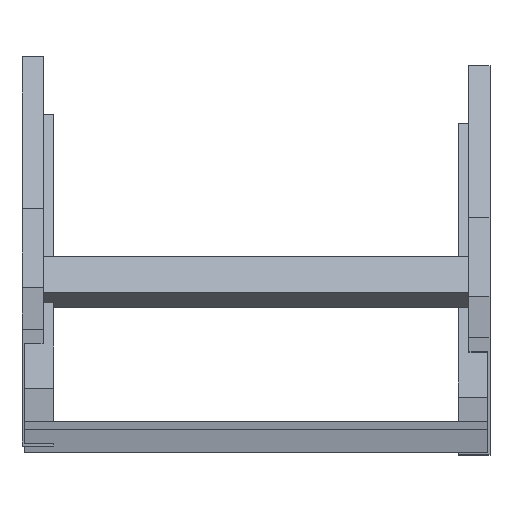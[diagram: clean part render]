
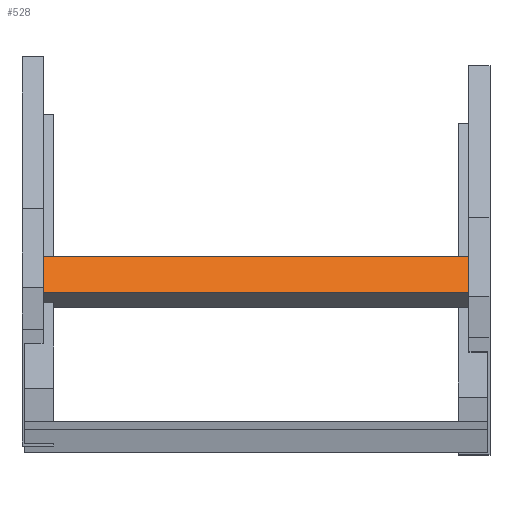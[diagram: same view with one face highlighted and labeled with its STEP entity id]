
A CAD part, top view. The second image highlights one B-rep face of the part: STEP entity #528.
In plain terms, the highlighted planar face has unit normal (0, 0.643, 0.766) as drawn and (0, 1, 0) by its records, which use the part's own axes.
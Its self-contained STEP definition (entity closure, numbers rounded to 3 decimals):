
#37 = VERTEX_POINT ( 'NONE', #1293 ) ;
#50 = VERTEX_POINT ( 'NONE', #629 ) ;
#71 = VERTEX_POINT ( 'NONE', #642 ) ;
#82 = EDGE_LOOP ( 'NONE', ( #953, #494, #124, #395 ) ) ;
#124 = ORIENTED_EDGE ( 'NONE', *, *, #756, .F. ) ;
#318 = EDGE_CURVE ( 'NONE', #470, #37, #587, .T. ) ;
#395 = ORIENTED_EDGE ( 'NONE', *, *, #318, .T. ) ;
#470 = VERTEX_POINT ( 'NONE', #491 ) ;
#491 = CARTESIAN_POINT ( 'NONE',  ( 198., 20., -20.25 ) ) ;
#494 = ORIENTED_EDGE ( 'NONE', *, *, #1624, .F. ) ;
#528 = ADVANCED_FACE ( 'NONE', ( #1152 ), #1663, .F. ) ;
#548 = DIRECTION ( 'NONE',  ( 0., 0., 1. ) ) ;
#580 = CARTESIAN_POINT ( 'NONE',  ( 198., 20., 20.25 ) ) ;
#587 = LINE ( 'NONE', #1612, #949 ) ;
#629 = CARTESIAN_POINT ( 'NONE',  ( 198., 20., 20.25 ) ) ;
#642 = CARTESIAN_POINT ( 'NONE',  ( -198., 20., 20.25 ) ) ;
#699 = AXIS2_PLACEMENT_3D ( 'NONE', #1629, #874, #1147 ) ;
#756 = EDGE_CURVE ( 'NONE', #470, #50, #959, .T. ) ;
#874 = DIRECTION ( 'NONE',  ( 0., -1., 0. ) ) ;
#897 = DIRECTION ( 'NONE',  ( -1., 0., 0. ) ) ;
#933 = CARTESIAN_POINT ( 'NONE',  ( -198., 20., 20.25 ) ) ;
#941 = LINE ( 'NONE', #933, #1539 ) ;
#949 = VECTOR ( 'NONE', #1117, 1000. ) ;
#953 = ORIENTED_EDGE ( 'NONE', *, *, #1331, .T. ) ;
#959 = LINE ( 'NONE', #580, #1113 ) ;
#1015 = LINE ( 'NONE', #1649, #1083 ) ;
#1083 = VECTOR ( 'NONE', #897, 1000. ) ;
#1092 = DIRECTION ( 'NONE',  ( 0., 0., 1. ) ) ;
#1113 = VECTOR ( 'NONE', #1092, 1000. ) ;
#1117 = DIRECTION ( 'NONE',  ( -1., 0., 0. ) ) ;
#1147 = DIRECTION ( 'NONE',  ( 0., 0., -1. ) ) ;
#1152 = FACE_OUTER_BOUND ( 'NONE', #82, .T. ) ;
#1293 = CARTESIAN_POINT ( 'NONE',  ( -198., 20., -20.25 ) ) ;
#1331 = EDGE_CURVE ( 'NONE', #37, #71, #941, .T. ) ;
#1539 = VECTOR ( 'NONE', #548, 1000. ) ;
#1612 = CARTESIAN_POINT ( 'NONE',  ( 198., 20., -20.25 ) ) ;
#1624 = EDGE_CURVE ( 'NONE', #50, #71, #1015, .T. ) ;
#1629 = CARTESIAN_POINT ( 'NONE',  ( 198., 20., 20.25 ) ) ;
#1649 = CARTESIAN_POINT ( 'NONE',  ( 198., 20., 20.25 ) ) ;
#1663 = PLANE ( 'NONE',  #699 ) ;
